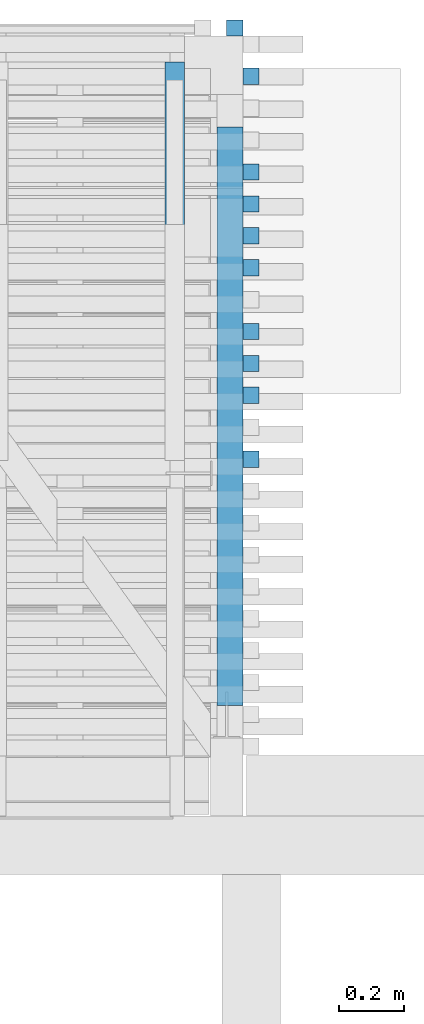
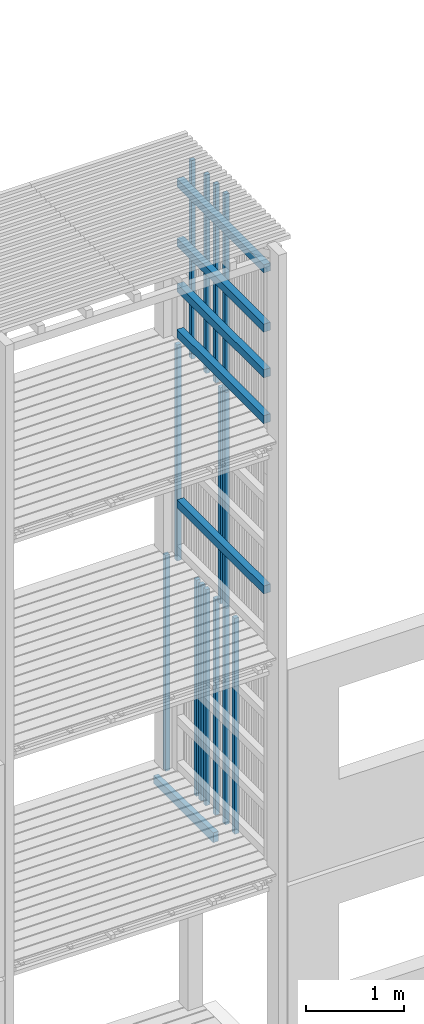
# One storey, part 56 of 182: 20 beams.
"""IFC2X3 building model written with IfcOpenShell, lengths in metres."""

from ifc_helpers import new_model, si_unit, frame, origin, place, context, project, spatial, faceted_brep, element, save


model = new_model("IFC2X3")

# Units and contexts
model_context = context("Model", 3, precision=1e-06, world=origin())
ifc_project = project(units=[si_unit("LENGTHUNIT", "METRE"), si_unit("PLANEANGLEUNIT", "RADIAN")], contexts=[model_context])

# Site, building, storey
site = spatial("IfcSite", under=ifc_project, CompositionType="ELEMENT")
building = spatial("IfcBuilding", under=site, CompositionType="ELEMENT")
storey = spatial("IfcBuildingStorey", under=building, Name="vs", CompositionType="ELEMENT", Elevation=-0.85)

# Beams
placement = place(None, origin())
beam_1_placement = place(placement, frame((16.62919731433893, 12.895077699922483, 2.575000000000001), z_axis=(0.0, -1.0, 0.0), x_axis=(0.0, 0.0, 1.0)))
element("IfcBeam", 1, at=beam_1_placement, inside=storey, Name="Bardage", context=model_context, shape_type="Brep", body=[
    faceted_brep([(2.699961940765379, -0.025000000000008, 0.025000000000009), (2.699961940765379, -0.025000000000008, -0.024999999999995), (2.699961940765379, 0.02499999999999, -0.025000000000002), (2.699961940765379, 0.025000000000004, 0.025000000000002), (0.0, -0.025000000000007, 0.025000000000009), (2.699961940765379, -0.025000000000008, 0.025000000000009), (2.699961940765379, 0.025000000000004, 0.025000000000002), (0.0, 0.025000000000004, 0.025000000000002), (0.0, -0.025000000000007, 0.025000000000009), (0.0, 0.025000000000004, 0.025000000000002), (0.0, 0.02499999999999, -0.025000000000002), (0.0, -0.025000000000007, -0.024999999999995), (0.0, -0.025000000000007, 0.025000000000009), (0.0, -0.025000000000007, -0.024999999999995), (2.699961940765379, -0.025000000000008, -0.024999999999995), (2.699961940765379, -0.025000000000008, 0.025000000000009), (0.0, -0.025000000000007, -0.024999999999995), (0.0, 0.02499999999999, -0.025000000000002), (2.699961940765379, 0.02499999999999, -0.025000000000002), (2.699961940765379, -0.025000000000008, -0.024999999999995), (0.0, 0.02499999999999, -0.025000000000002), (0.0, 0.025000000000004, 0.025000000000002), (2.699961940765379, 0.025000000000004, 0.025000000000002), (2.699961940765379, 0.02499999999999, -0.025000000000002)], [[[0, 1, 2, 3]], [[4, 5, 6, 7]], [[8, 9, 10, 11]], [[12, 13, 14, 15]], [[16, 17, 18, 19]], [[20, 21, 22, 23]]]),
])
beam_2_placement = place(placement, frame((16.67919731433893, 12.746895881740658, 5.274999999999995), z_axis=(-1.0, 0.0, 0.0), x_axis=(0.0, 0.0, 1.0)))
element("IfcBeam", 2, at=beam_2_placement, inside=storey, Name="Bardage", context=model_context, shape_type="Brep", body=[
    faceted_brep([(1e-15, -0.025000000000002, 0.024999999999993), (1e-15, 0.024999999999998, 0.024999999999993), (1e-15, 0.024999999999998, -0.025000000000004), (1e-15, -0.025000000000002, -0.025000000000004), (2.699999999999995, -0.025000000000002, -0.025000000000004), (2.699999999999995, 0.025000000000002, -0.025000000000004), (2.699999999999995, 0.025000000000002, 0.024999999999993), (2.699999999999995, -0.025000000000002, 0.024999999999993), (1e-15, -0.025000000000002, 0.024999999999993), (1e-15, -0.025000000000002, -0.025000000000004), (2.699999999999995, -0.025000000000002, -0.025000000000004), (2.699999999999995, -0.025000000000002, 0.024999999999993), (2.699999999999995, -0.025000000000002, -0.025000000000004), (1e-15, -0.025000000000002, -0.025000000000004), (1e-15, 0.024999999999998, -0.025000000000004), (2.699999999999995, 0.025000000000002, -0.025000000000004), (2.699999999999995, 0.025000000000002, -0.025000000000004), (1e-15, 0.024999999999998, -0.025000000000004), (1e-15, 0.024999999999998, 0.024999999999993), (2.699999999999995, 0.025000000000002, 0.024999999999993), (2.699999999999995, 0.025000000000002, 0.024999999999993), (1e-15, 0.024999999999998, 0.024999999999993), (1e-15, -0.025000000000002, 0.024999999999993), (2.699999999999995, -0.025000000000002, 0.024999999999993)], [[[0, 1, 2, 3]], [[4, 5, 6, 7]], [[8, 9, 10, 11]], [[12, 13, 14, 15]], [[16, 17, 18, 19]], [[20, 21, 22, 23]]]),
])
beam_3_placement = place(placement, frame((16.67919731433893, 11.863259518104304, 5.274999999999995), z_axis=(-1.0, 0.0, 0.0), x_axis=(0.0, 0.0, 1.0)))
element("IfcBeam", 3, at=beam_3_placement, inside=storey, Name="Bardage", context=model_context, shape_type="Brep", body=[
    faceted_brep([(1e-15, -0.024999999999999, 0.024999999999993), (1e-15, 0.024999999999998, 0.024999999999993), (1e-15, 0.024999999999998, -0.025000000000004), (1e-15, -0.024999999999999, -0.025000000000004), (2.699999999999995, -0.024999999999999, -0.025000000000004), (2.699999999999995, 0.024999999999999, -0.025000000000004), (2.699999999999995, 0.024999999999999, 0.024999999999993), (2.699999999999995, -0.024999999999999, 0.024999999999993), (1e-15, -0.024999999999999, 0.024999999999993), (1e-15, -0.024999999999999, -0.025000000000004), (2.699999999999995, -0.024999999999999, -0.025000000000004), (2.699999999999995, -0.024999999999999, 0.024999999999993), (2.699999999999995, -0.024999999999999, -0.025000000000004), (1e-15, -0.024999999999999, -0.025000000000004), (1e-15, 0.024999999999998, -0.025000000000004), (2.699999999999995, 0.024999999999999, -0.025000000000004), (2.699999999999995, 0.024999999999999, -0.025000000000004), (1e-15, 0.024999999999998, -0.025000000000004), (1e-15, 0.024999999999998, 0.024999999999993), (2.699999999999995, 0.024999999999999, 0.024999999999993), (2.699999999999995, 0.024999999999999, 0.024999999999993), (1e-15, 0.024999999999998, 0.024999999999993), (1e-15, -0.024999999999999, 0.024999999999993), (2.699999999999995, -0.024999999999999, 0.024999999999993)], [[[0, 1, 2, 3]], [[4, 5, 6, 7]], [[8, 9, 10, 11]], [[12, 13, 14, 15]], [[16, 17, 18, 19]], [[20, 21, 22, 23]]]),
])
beam_4_placement = place(placement, frame((16.614197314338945, 10.810077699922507, 6.101249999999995), z_axis=(0.0, 0.0, 1.0), x_axis=(0.0, 1.0, 0.0)))
element("IfcBeam", 4, at=beam_4_placement, inside=storey, Name="Support bardage", context=model_context, shape_type="Brep", body=[
    faceted_brep([(1.779999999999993, -0.039999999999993, 0.050000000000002), (1.779999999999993, -0.039999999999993, -0.05), (1.779999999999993, 0.04000000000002, -0.05), (1.779999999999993, 0.04000000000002, 0.050000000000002), (-4e-15, -0.039999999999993, -0.05), (1.779999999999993, -0.039999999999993, -0.05), (1.779999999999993, -0.039999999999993, 0.050000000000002), (-4e-15, -0.039999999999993, 0.050000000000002), (-4e-15, 0.04000000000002, -0.05), (1.779999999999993, 0.04000000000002, -0.05), (1.779999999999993, -0.039999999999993, -0.05), (-4e-15, -0.039999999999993, -0.05), (-4e-15, 0.04000000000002, 0.050000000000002), (1.779999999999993, 0.04000000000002, 0.050000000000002), (1.779999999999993, 0.04000000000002, -0.05), (-4e-15, 0.04000000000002, -0.05), (-4e-15, -0.039999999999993, 0.050000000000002), (1.779999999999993, -0.039999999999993, 0.050000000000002), (1.779999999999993, 0.04000000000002, 0.050000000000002), (-4e-15, 0.04000000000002, 0.050000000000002), (-4e-15, -0.039999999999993, -0.05), (-4e-15, -0.039999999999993, 0.050000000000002), (-4e-15, 0.04000000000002, 0.050000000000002), (-4e-15, 0.04000000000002, -0.05)], [[[0, 1, 2, 3]], [[4, 5, 6, 7]], [[8, 9, 10, 11]], [[12, 13, 14, 15]], [[16, 17, 18, 19]], [[20, 21, 22, 23]]]),
])
beam_5_placement = place(placement, frame((16.67919731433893, 11.961441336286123, 7.974999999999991), z_axis=(-1.0, 0.0, 0.0), x_axis=(0.0, 0.0, 1.0)))
element("IfcBeam", 5, at=beam_5_placement, inside=storey, Name="Bardage", context=model_context, shape_type="Brep", body=[
    faceted_brep([(2.479999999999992, -0.025000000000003, 0.024999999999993), (2.479999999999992, -0.025000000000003, -0.025000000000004), (2.479999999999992, 0.024999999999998, -0.025000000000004), (2.479999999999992, 0.024999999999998, 0.024999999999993), (0.0, 0.024999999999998, 0.024999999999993), (0.0, -0.025000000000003, 0.024999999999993), (2.479999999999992, -0.025000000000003, 0.024999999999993), (2.479999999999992, 0.024999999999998, 0.024999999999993), (0.0, -0.025000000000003, 0.024999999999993), (0.0, 0.024999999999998, 0.024999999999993), (0.0, 0.024999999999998, -0.025000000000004), (0.0, -0.025000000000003, -0.025000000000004), (0.0, 0.024999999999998, -0.025000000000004), (0.0, 0.024999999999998, 0.024999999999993), (2.479999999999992, 0.024999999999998, 0.024999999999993), (2.479999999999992, 0.024999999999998, -0.025000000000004), (0.0, -0.025000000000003, -0.025000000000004), (0.0, 0.024999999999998, -0.025000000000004), (2.479999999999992, 0.024999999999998, -0.025000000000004), (2.479999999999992, -0.025000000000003, -0.025000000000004), (2.479999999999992, -0.025000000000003, 0.024999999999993), (0.0, -0.025000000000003, 0.024999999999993), (0.0, -0.025000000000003, -0.025000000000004), (2.479999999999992, -0.025000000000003, -0.025000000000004)], [[[0, 1, 2, 3]], [[4, 5, 6, 7]], [[8, 9, 10, 11]], [[12, 13, 14, 15]], [[16, 17, 18, 19]], [[20, 21, 22, 23]]]),
])
beam_6_placement = place(placement, frame((16.67919731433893, 12.452350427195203, 7.974999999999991), z_axis=(-1.0, 0.0, 0.0), x_axis=(0.0, 0.0, 1.0)))
element("IfcBeam", 6, at=beam_6_placement, inside=storey, Name="Bardage", context=model_context, shape_type="Brep", body=[
    faceted_brep([(2.479999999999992, -0.024999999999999, 0.024999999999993), (2.479999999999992, -0.024999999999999, -0.025000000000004), (2.479999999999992, 0.025000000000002, -0.025000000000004), (2.479999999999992, 0.025000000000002, 0.024999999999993), (0.0, 0.025000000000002, 0.024999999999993), (0.0, -0.024999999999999, 0.024999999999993), (2.479999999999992, -0.024999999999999, 0.024999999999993), (2.479999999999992, 0.025000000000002, 0.024999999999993), (0.0, -0.024999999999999, 0.024999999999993), (0.0, 0.025000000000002, 0.024999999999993), (0.0, 0.025000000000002, -0.025000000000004), (0.0, -0.024999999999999, -0.025000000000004), (0.0, 0.025000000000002, -0.025000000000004), (0.0, 0.025000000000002, 0.024999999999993), (2.479999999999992, 0.025000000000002, 0.024999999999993), (2.479999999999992, 0.025000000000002, -0.025000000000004), (0.0, -0.024999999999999, -0.025000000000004), (0.0, 0.025000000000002, -0.025000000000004), (2.479999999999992, 0.025000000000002, -0.025000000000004), (2.479999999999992, -0.024999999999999, -0.025000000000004), (2.479999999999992, -0.024999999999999, 0.024999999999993), (0.0, -0.024999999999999, 0.024999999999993), (0.0, -0.024999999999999, -0.025000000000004), (2.479999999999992, -0.024999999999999, -0.025000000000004)], [[[0, 1, 2, 3]], [[4, 5, 6, 7]], [[8, 9, 10, 11]], [[12, 13, 14, 15]], [[16, 17, 18, 19]], [[20, 21, 22, 23]]]),
])
beam_7_placement = place(placement, frame((16.67919731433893, 11.765077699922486, 7.974999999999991), z_axis=(-1.0, 0.0, 0.0), x_axis=(0.0, 1e-15, 1.0)))
element("IfcBeam", 7, at=beam_7_placement, inside=storey, Name="Bardage", context=model_context, shape_type="Brep", body=[
    faceted_brep([(2.479999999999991, -0.025000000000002, 0.024999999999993), (2.479999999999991, -0.025000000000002, -0.025000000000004), (2.479999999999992, 0.024999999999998, -0.025000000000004), (2.479999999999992, 0.024999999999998, 0.024999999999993), (0.0, 0.025000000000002, 0.024999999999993), (0.0, -0.024999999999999, 0.024999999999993), (2.479999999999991, -0.025000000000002, 0.024999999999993), (2.479999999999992, 0.024999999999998, 0.024999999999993), (0.0, -0.024999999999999, 0.024999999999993), (0.0, 0.025000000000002, 0.024999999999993), (0.0, 0.025000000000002, -0.025000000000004), (0.0, -0.024999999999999, -0.025000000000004), (0.0, 0.025000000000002, -0.025000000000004), (0.0, 0.025000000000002, 0.024999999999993), (2.479999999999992, 0.024999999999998, 0.024999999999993), (2.479999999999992, 0.024999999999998, -0.025000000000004), (0.0, -0.024999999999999, -0.025000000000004), (0.0, 0.025000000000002, -0.025000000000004), (2.479999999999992, 0.024999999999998, -0.025000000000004), (2.479999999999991, -0.025000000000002, -0.025000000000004), (2.479999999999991, -0.025000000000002, 0.024999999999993), (0.0, -0.024999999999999, 0.024999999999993), (0.0, -0.024999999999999, -0.025000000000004), (2.479999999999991, -0.025000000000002, -0.025000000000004)], [[[0, 1, 2, 3]], [[4, 5, 6, 7]], [[8, 9, 10, 11]], [[12, 13, 14, 15]], [[16, 17, 18, 19]], [[20, 21, 22, 23]]]),
])
beam_8_placement = place(placement, frame((16.67919731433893, 12.255986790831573, 2.575000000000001), z_axis=(-1.0, 0.0, 0.0), x_axis=(0.0, 0.0, 1.0)))
element("IfcBeam", 8, at=beam_8_placement, inside=storey, Name="Bardage", context=model_context, shape_type="Brep", body=[
    faceted_brep([(0.0, -0.025000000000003, 0.024999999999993), (0.0, 0.025000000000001, 0.024999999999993), (0.0, 0.025000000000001, -0.025000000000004), (0.0, -0.025000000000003, -0.025000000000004), (2.699961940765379, 0.025000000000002, -0.025000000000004), (2.699961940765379, 0.025000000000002, 0.024999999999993), (2.699961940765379, -0.024999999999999, 0.024999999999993), (2.699961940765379, -0.024999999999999, -0.025000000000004), (0.0, -0.025000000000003, -0.025000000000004), (0.0, 0.025000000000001, -0.025000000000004), (2.699961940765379, 0.025000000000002, -0.025000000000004), (2.699961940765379, -0.024999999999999, -0.025000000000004), (2.699961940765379, 0.025000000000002, -0.025000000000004), (0.0, 0.025000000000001, -0.025000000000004), (0.0, 0.025000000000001, 0.024999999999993), (2.699961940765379, 0.025000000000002, 0.024999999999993), (2.699961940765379, 0.025000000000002, 0.024999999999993), (0.0, 0.025000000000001, 0.024999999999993), (0.0, -0.025000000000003, 0.024999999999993), (2.699961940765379, -0.024999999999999, 0.024999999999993), (2.699961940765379, -0.024999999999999, 0.024999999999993), (0.0, -0.025000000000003, 0.024999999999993), (0.0, -0.025000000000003, -0.025000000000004), (2.699961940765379, -0.024999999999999, -0.025000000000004)], [[[0, 1, 2, 3]], [[4, 5, 6, 7]], [[8, 9, 10, 11]], [[12, 13, 14, 15]], [[16, 17, 18, 19]], [[20, 21, 22, 23]]]),
])
beam_9_placement = place(placement, frame((16.67919731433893, 12.157804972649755, 2.575000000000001), z_axis=(-1.0, 0.0, 0.0), x_axis=(0.0, 0.0, 1.0)))
element("IfcBeam", 9, at=beam_9_placement, inside=storey, Name="Bardage", context=model_context, shape_type="Brep", body=[
    faceted_brep([(0.0, -0.024999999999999, 0.024999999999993), (0.0, 0.025000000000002, 0.024999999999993), (0.0, 0.025000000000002, -0.025000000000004), (0.0, -0.024999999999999, -0.025000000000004), (2.699961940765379, 0.025000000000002, -0.025000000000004), (2.699961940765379, 0.025000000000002, 0.024999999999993), (2.699961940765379, -0.024999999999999, 0.024999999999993), (2.699961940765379, -0.024999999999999, -0.025000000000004), (0.0, -0.024999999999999, -0.025000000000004), (0.0, 0.025000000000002, -0.025000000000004), (2.699961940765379, 0.025000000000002, -0.025000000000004), (2.699961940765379, -0.024999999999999, -0.025000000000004), (2.699961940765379, 0.025000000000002, -0.025000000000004), (0.0, 0.025000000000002, -0.025000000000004), (0.0, 0.025000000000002, 0.024999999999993), (2.699961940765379, 0.025000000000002, 0.024999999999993), (2.699961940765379, 0.025000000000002, 0.024999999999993), (0.0, 0.025000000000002, 0.024999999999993), (0.0, -0.024999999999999, 0.024999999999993), (2.699961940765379, -0.024999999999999, 0.024999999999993), (2.699961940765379, -0.024999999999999, 0.024999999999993), (0.0, -0.024999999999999, 0.024999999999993), (0.0, -0.024999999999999, -0.025000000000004), (2.699961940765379, -0.024999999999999, -0.025000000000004)], [[[0, 1, 2, 3]], [[4, 5, 6, 7]], [[8, 9, 10, 11]], [[12, 13, 14, 15]], [[16, 17, 18, 19]], [[20, 21, 22, 23]]]),
])
beam_10_placement = place(placement, frame((16.44419731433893, 11.565077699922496, 2.604249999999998), z_axis=(0.0, 0.0, 1.0), x_axis=(0.0, 1.0, 0.0)))
element("IfcBeam", 10, at=beam_10_placement, inside=storey, Name="Solive", context=model_context, shape_type="Brep", body=[
    faceted_brep([(0.0, -0.03, 0.06185), (0.0, -0.03, -0.06185), (1.225000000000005, -0.03, -0.06185), (1.225000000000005, -0.03, 0.03735), (0.0, -0.03, -0.06185), (0.0, -0.03, 0.06185), (0.0, 0.029999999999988, 0.06185), (0.0, 0.029999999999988, -0.06185), (1.225000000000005, -0.03, -0.06185), (0.0, -0.03, -0.06185), (0.0, 0.029999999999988, -0.06185), (1.225000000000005, 0.029999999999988, -0.06185), (1.225000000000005, 0.029999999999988, 0.03735), (1.225000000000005, 0.029999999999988, -0.06185), (0.0, 0.029999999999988, -0.06185), (0.0, 0.029999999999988, 0.06185), (1.225000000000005, -0.03, 0.03735), (1.225000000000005, -0.03, -0.06185), (1.225000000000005, 0.029999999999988, -0.06185), (1.225000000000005, 0.029999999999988, 0.03735), (1.225000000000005, -0.03, 0.03735), (1.225000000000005, 0.029999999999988, 0.03735), (0.0, 0.029999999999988, 0.06185), (0.0, -0.03, 0.06185)], [[[0, 1, 2, 3]], [[4, 5, 6, 7]], [[8, 9, 10, 11]], [[12, 13, 14, 15]], [[16, 17, 18, 19]], [[20, 21, 22, 23]]]),
])
beam_11_placement = place(placement, frame((16.67919731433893, 12.354168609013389, 2.575000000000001), z_axis=(-1.0, 0.0, 0.0), x_axis=(0.0, 0.0, 1.0)))
element("IfcBeam", 11, at=beam_11_placement, inside=storey, Name="Bardage", context=model_context, shape_type="Brep", body=[
    faceted_brep([(0.0, -0.024999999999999, 0.024999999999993), (0.0, 0.024999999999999, 0.024999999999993), (0.0, 0.024999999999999, -0.025000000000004), (0.0, -0.024999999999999, -0.025000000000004), (2.699961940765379, 0.024999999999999, -0.025000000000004), (2.699961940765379, 0.024999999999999, 0.024999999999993), (2.699961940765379, -0.024999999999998, 0.024999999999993), (2.699961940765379, -0.024999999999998, -0.025000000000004), (0.0, -0.024999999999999, -0.025000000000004), (0.0, 0.024999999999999, -0.025000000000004), (2.699961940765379, 0.024999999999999, -0.025000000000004), (2.699961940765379, -0.024999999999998, -0.025000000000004), (2.699961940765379, 0.024999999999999, -0.025000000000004), (0.0, 0.024999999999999, -0.025000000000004), (0.0, 0.024999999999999, 0.024999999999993), (2.699961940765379, 0.024999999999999, 0.024999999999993), (2.699961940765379, 0.024999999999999, 0.024999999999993), (0.0, 0.024999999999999, 0.024999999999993), (0.0, -0.024999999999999, 0.024999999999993), (2.699961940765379, -0.024999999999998, 0.024999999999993), (2.699961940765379, -0.024999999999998, 0.024999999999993), (0.0, -0.024999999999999, 0.024999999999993), (0.0, -0.024999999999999, -0.025000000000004), (2.699961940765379, -0.024999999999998, -0.025000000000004)], [[[0, 1, 2, 3]], [[4, 5, 6, 7]], [[8, 9, 10, 11]], [[12, 13, 14, 15]], [[16, 17, 18, 19]], [[20, 21, 22, 23]]]),
])
beam_12_placement = place(placement, frame((16.614197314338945, 10.810077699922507, 9.37249999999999), z_axis=(0.0, 0.0, 1.0), x_axis=(0.0, 1.0, 0.0)))
element("IfcBeam", 12, at=beam_12_placement, inside=storey, Name="Support bardage", context=model_context, shape_type="Brep", body=[
    faceted_brep([(1.779999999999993, -0.039999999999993, 0.050000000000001), (1.779999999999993, -0.039999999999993, -0.050000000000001), (1.779999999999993, 0.04000000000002, -0.050000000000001), (1.779999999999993, 0.04000000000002, 0.050000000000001), (-4e-15, -0.039999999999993, -0.050000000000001), (1.779999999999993, -0.039999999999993, -0.050000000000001), (1.779999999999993, -0.039999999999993, 0.050000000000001), (-4e-15, -0.039999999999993, 0.050000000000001), (-4e-15, 0.04000000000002, -0.050000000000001), (1.779999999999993, 0.04000000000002, -0.050000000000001), (1.779999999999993, -0.039999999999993, -0.050000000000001), (-4e-15, -0.039999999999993, -0.050000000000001), (-4e-15, 0.04000000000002, 0.050000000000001), (1.779999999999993, 0.04000000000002, 0.050000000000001), (1.779999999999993, 0.04000000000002, -0.050000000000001), (-4e-15, 0.04000000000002, -0.050000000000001), (-4e-15, -0.039999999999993, 0.050000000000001), (1.779999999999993, -0.039999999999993, 0.050000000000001), (1.779999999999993, 0.04000000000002, 0.050000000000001), (-4e-15, 0.04000000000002, 0.050000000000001), (-4e-15, -0.039999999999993, -0.050000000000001), (-4e-15, -0.039999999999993, 0.050000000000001), (-4e-15, 0.04000000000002, 0.050000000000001), (-4e-15, 0.04000000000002, -0.050000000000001)], [[[0, 1, 2, 3]], [[4, 5, 6, 7]], [[8, 9, 10, 11]], [[12, 13, 14, 15]], [[16, 17, 18, 19]], [[20, 21, 22, 23]]]),
])
beam_13_placement = place(placement, frame((16.67919731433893, 11.765077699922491, 2.575000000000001), z_axis=(-1.0, 0.0, 0.0), x_axis=(0.0, 0.0, 1.0)))
element("IfcBeam", 13, at=beam_13_placement, inside=storey, Name="Bardage", context=model_context, shape_type="Brep", body=[
    faceted_brep([(0.0, -0.025000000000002, 0.024999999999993), (0.0, 0.024999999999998, 0.024999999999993), (0.0, 0.024999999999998, -0.025000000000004), (0.0, -0.025000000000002, -0.025000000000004), (2.699961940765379, 0.024999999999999, -0.025000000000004), (2.699961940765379, 0.024999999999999, 0.024999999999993), (2.699961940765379, -0.025000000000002, 0.024999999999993), (2.699961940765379, -0.025000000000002, -0.025000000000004), (0.0, -0.025000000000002, -0.025000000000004), (0.0, 0.024999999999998, -0.025000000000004), (2.699961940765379, 0.024999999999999, -0.025000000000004), (2.699961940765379, -0.025000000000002, -0.025000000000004), (2.699961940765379, 0.024999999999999, -0.025000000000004), (0.0, 0.024999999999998, -0.025000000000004), (0.0, 0.024999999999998, 0.024999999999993), (2.699961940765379, 0.024999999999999, 0.024999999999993), (2.699961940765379, 0.024999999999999, 0.024999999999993), (0.0, 0.024999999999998, 0.024999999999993), (0.0, -0.025000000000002, 0.024999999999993), (2.699961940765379, -0.025000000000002, 0.024999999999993), (2.699961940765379, -0.025000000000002, 0.024999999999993), (0.0, -0.025000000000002, 0.024999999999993), (0.0, -0.025000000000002, -0.025000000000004), (2.699961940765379, -0.025000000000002, -0.025000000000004)], [[[0, 1, 2, 3]], [[4, 5, 6, 7]], [[8, 9, 10, 11]], [[12, 13, 14, 15]], [[16, 17, 18, 19]], [[20, 21, 22, 23]]]),
])
beam_14_placement = place(placement, frame((16.67919731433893, 11.568714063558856, 2.575000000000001), z_axis=(-1.0, 0.0, 0.0), x_axis=(0.0, 0.0, 1.0)))
element("IfcBeam", 14, at=beam_14_placement, inside=storey, Name="Bardage", context=model_context, shape_type="Brep", body=[
    faceted_brep([(0.0, -0.024999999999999, 0.024999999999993), (0.0, 0.024999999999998, 0.024999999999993), (0.0, 0.024999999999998, -0.025000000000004), (0.0, -0.024999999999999, -0.025000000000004), (2.699961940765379, 0.024999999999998, -0.025000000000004), (2.699961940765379, 0.024999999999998, 0.024999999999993), (2.699961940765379, -0.024999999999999, 0.024999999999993), (2.699961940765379, -0.024999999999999, -0.025000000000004), (0.0, -0.024999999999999, -0.025000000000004), (0.0, 0.024999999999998, -0.025000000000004), (2.699961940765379, 0.024999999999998, -0.025000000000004), (2.699961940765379, -0.024999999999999, -0.025000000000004), (2.699961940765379, 0.024999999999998, -0.025000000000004), (0.0, 0.024999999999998, -0.025000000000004), (0.0, 0.024999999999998, 0.024999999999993), (2.699961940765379, 0.024999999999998, 0.024999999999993), (2.699961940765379, 0.024999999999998, 0.024999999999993), (0.0, 0.024999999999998, 0.024999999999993), (0.0, -0.024999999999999, 0.024999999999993), (2.699961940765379, -0.024999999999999, 0.024999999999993), (2.699961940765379, -0.024999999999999, 0.024999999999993), (0.0, -0.024999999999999, 0.024999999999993), (0.0, -0.024999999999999, -0.025000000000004), (2.699961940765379, -0.024999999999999, -0.025000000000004)], [[[0, 1, 2, 3]], [[4, 5, 6, 7]], [[8, 9, 10, 11]], [[12, 13, 14, 15]], [[16, 17, 18, 19]], [[20, 21, 22, 23]]]),
])
beam_15_placement = place(placement, frame((16.67919731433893, 11.765077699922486, 5.274999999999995), z_axis=(-1.0, 0.0, 0.0), x_axis=(0.0, 1e-15, 1.0)))
element("IfcBeam", 15, at=beam_15_placement, inside=storey, Name="Bardage", context=model_context, shape_type="Brep", body=[
    faceted_brep([(1e-15, -0.024999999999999, 0.024999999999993), (1e-15, 0.025000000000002, 0.024999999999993), (1e-15, 0.025000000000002, -0.025000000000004), (1e-15, -0.024999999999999, -0.025000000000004), (2.699999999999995, -0.025000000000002, -0.025000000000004), (2.699999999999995, 0.024999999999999, -0.025000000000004), (2.699999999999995, 0.024999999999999, 0.024999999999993), (2.699999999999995, -0.025000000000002, 0.024999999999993), (1e-15, -0.024999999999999, 0.024999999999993), (1e-15, -0.024999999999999, -0.025000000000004), (2.699999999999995, -0.025000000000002, -0.025000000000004), (2.699999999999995, -0.025000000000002, 0.024999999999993), (2.699999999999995, -0.025000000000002, -0.025000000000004), (1e-15, -0.024999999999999, -0.025000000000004), (1e-15, 0.025000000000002, -0.025000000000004), (2.699999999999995, 0.024999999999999, -0.025000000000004), (2.699999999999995, 0.024999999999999, -0.025000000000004), (1e-15, 0.025000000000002, -0.025000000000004), (1e-15, 0.025000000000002, 0.024999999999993), (2.699999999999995, 0.024999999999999, 0.024999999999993), (2.699999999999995, 0.024999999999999, 0.024999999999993), (1e-15, 0.025000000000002, 0.024999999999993), (1e-15, -0.024999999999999, 0.024999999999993), (2.699999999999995, -0.025000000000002, 0.024999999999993)], [[[0, 1, 2, 3]], [[4, 5, 6, 7]], [[8, 9, 10, 11]], [[12, 13, 14, 15]], [[16, 17, 18, 19]], [[20, 21, 22, 23]]]),
])
beam_16_placement = place(placement, frame((16.67919731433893, 11.961441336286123, 2.575000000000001), z_axis=(-1.0, 0.0, 0.0), x_axis=(0.0, 0.0, 1.0)))
element("IfcBeam", 16, at=beam_16_placement, inside=storey, Name="Bardage", context=model_context, shape_type="Brep", body=[
    faceted_brep([(0.0, -0.025000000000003, 0.024999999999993), (0.0, 0.024999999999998, 0.024999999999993), (0.0, 0.024999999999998, -0.025000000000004), (0.0, -0.025000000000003, -0.025000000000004), (2.699961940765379, 0.024999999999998, -0.025000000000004), (2.699961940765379, 0.024999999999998, 0.024999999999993), (2.699961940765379, -0.025000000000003, 0.024999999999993), (2.699961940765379, -0.025000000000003, -0.025000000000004), (0.0, -0.025000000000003, -0.025000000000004), (0.0, 0.024999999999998, -0.025000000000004), (2.699961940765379, 0.024999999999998, -0.025000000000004), (2.699961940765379, -0.025000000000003, -0.025000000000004), (2.699961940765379, 0.024999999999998, -0.025000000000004), (0.0, 0.024999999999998, -0.025000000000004), (0.0, 0.024999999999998, 0.024999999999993), (2.699961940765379, 0.024999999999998, 0.024999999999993), (2.699961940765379, 0.024999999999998, 0.024999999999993), (0.0, 0.024999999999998, 0.024999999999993), (0.0, -0.025000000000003, 0.024999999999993), (2.699961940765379, -0.025000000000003, 0.024999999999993), (2.699961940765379, -0.025000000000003, 0.024999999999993), (0.0, -0.025000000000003, 0.024999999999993), (0.0, -0.025000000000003, -0.025000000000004), (2.699961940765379, -0.025000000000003, -0.025000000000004)], [[[0, 1, 2, 3]], [[4, 5, 6, 7]], [[8, 9, 10, 11]], [[12, 13, 14, 15]], [[16, 17, 18, 19]], [[20, 21, 22, 23]]]),
])
beam_17_placement = place(placement, frame((16.614197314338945, 10.810077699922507, 8.229999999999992), z_axis=(0.0, 0.0, 1.0), x_axis=(0.0, 1.0, 0.0)))
element("IfcBeam", 17, at=beam_17_placement, inside=storey, Name="Support bardage", context=model_context, shape_type="Brep", body=[
    faceted_brep([(1.779999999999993, -0.039999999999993, 0.050000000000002), (1.779999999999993, -0.039999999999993, -0.05), (1.779999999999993, 0.04000000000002, -0.05), (1.779999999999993, 0.04000000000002, 0.050000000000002), (-4e-15, -0.039999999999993, -0.05), (1.779999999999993, -0.039999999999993, -0.05), (1.779999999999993, -0.039999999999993, 0.050000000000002), (-4e-15, -0.039999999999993, 0.050000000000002), (-4e-15, 0.04000000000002, -0.05), (1.779999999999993, 0.04000000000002, -0.05), (1.779999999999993, -0.039999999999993, -0.05), (-4e-15, -0.039999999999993, -0.05), (-4e-15, 0.04000000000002, 0.050000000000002), (1.779999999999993, 0.04000000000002, 0.050000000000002), (1.779999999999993, 0.04000000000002, -0.05), (-4e-15, 0.04000000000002, -0.05), (-4e-15, -0.039999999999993, 0.050000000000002), (1.779999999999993, -0.039999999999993, 0.050000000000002), (1.779999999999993, 0.04000000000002, 0.050000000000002), (-4e-15, 0.04000000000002, 0.050000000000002), (-4e-15, -0.039999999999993, -0.05), (-4e-15, -0.039999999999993, 0.050000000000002), (-4e-15, 0.04000000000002, 0.050000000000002), (-4e-15, 0.04000000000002, -0.05)], [[[0, 1, 2, 3]], [[4, 5, 6, 7]], [[8, 9, 10, 11]], [[12, 13, 14, 15]], [[16, 17, 18, 19]], [[20, 21, 22, 23]]]),
])
beam_18_placement = place(placement, frame((16.67919731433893, 12.157804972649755, 7.974999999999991), z_axis=(-1.0, 0.0, 0.0), x_axis=(0.0, 0.0, 1.0)))
element("IfcBeam", 18, at=beam_18_placement, inside=storey, Name="Bardage", context=model_context, shape_type="Brep", body=[
    faceted_brep([(2.479999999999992, -0.024999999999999, 0.024999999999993), (2.479999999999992, -0.024999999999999, -0.025000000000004), (2.479999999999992, 0.025000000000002, -0.025000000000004), (2.479999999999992, 0.025000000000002, 0.024999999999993), (0.0, 0.024999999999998, 0.024999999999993), (0.0, -0.024999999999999, 0.024999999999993), (2.479999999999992, -0.024999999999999, 0.024999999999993), (2.479999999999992, 0.025000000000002, 0.024999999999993), (0.0, -0.024999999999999, 0.024999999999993), (0.0, 0.024999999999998, 0.024999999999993), (0.0, 0.024999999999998, -0.025000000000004), (0.0, -0.024999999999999, -0.025000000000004), (0.0, 0.024999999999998, -0.025000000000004), (0.0, 0.024999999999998, 0.024999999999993), (2.479999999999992, 0.025000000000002, 0.024999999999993), (2.479999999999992, 0.025000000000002, -0.025000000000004), (0.0, -0.024999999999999, -0.025000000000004), (0.0, 0.024999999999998, -0.025000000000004), (2.479999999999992, 0.025000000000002, -0.025000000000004), (2.479999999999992, -0.024999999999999, -0.025000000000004), (2.479999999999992, -0.024999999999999, 0.024999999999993), (0.0, -0.024999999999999, 0.024999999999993), (0.0, -0.024999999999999, -0.025000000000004), (2.479999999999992, -0.024999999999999, -0.025000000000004)], [[[0, 1, 2, 3]], [[4, 5, 6, 7]], [[8, 9, 10, 11]], [[12, 13, 14, 15]], [[16, 17, 18, 19]], [[20, 21, 22, 23]]]),
])
beam_19_placement = place(placement, frame((16.614197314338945, 10.810077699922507, 10.114999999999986), z_axis=(0.0, 0.0, 1.0), x_axis=(0.0, 1.0, 0.0)))
element("IfcBeam", 19, at=beam_19_placement, inside=storey, Name="Support bardage", context=model_context, shape_type="Brep", body=[
    faceted_brep([(1.779999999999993, -0.039999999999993, 0.050000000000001), (1.779999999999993, -0.039999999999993, -0.050000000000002), (1.779999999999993, 0.04000000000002, -0.050000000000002), (1.779999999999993, 0.04000000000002, 0.050000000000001), (-4e-15, -0.039999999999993, -0.050000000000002), (1.779999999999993, -0.039999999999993, -0.050000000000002), (1.779999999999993, -0.039999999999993, 0.050000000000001), (-4e-15, -0.039999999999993, 0.050000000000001), (-4e-15, 0.04000000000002, -0.050000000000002), (1.779999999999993, 0.04000000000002, -0.050000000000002), (1.779999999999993, -0.039999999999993, -0.050000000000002), (-4e-15, -0.039999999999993, -0.050000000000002), (-4e-15, 0.04000000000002, 0.050000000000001), (1.779999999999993, 0.04000000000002, 0.050000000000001), (1.779999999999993, 0.04000000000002, -0.050000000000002), (-4e-15, 0.04000000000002, -0.050000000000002), (-4e-15, -0.039999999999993, 0.050000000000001), (1.779999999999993, -0.039999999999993, 0.050000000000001), (1.779999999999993, 0.04000000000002, 0.050000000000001), (-4e-15, 0.04000000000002, 0.050000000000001), (-4e-15, -0.039999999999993, -0.050000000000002), (-4e-15, -0.039999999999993, 0.050000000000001), (-4e-15, 0.04000000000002, 0.050000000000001), (-4e-15, 0.04000000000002, -0.050000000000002)], [[[0, 1, 2, 3]], [[4, 5, 6, 7]], [[8, 9, 10, 11]], [[12, 13, 14, 15]], [[16, 17, 18, 19]], [[20, 21, 22, 23]]]),
])
beam_20_placement = place(placement, frame((16.614197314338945, 10.810077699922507, 8.80124999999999), z_axis=(0.0, 0.0, 1.0), x_axis=(0.0, 1.0, 0.0)))
element("IfcBeam", 20, at=beam_20_placement, inside=storey, Name="Support bardage", context=model_context, shape_type="Brep", body=[
    faceted_brep([(1.779999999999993, -0.039999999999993, 0.050000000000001), (1.779999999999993, -0.039999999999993, -0.050000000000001), (1.779999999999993, 0.04000000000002, -0.050000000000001), (1.779999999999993, 0.04000000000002, 0.050000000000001), (-4e-15, -0.039999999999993, -0.050000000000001), (1.779999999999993, -0.039999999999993, -0.050000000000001), (1.779999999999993, -0.039999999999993, 0.050000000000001), (-4e-15, -0.039999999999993, 0.050000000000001), (-4e-15, 0.04000000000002, -0.050000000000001), (1.779999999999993, 0.04000000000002, -0.050000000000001), (1.779999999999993, -0.039999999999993, -0.050000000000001), (-4e-15, -0.039999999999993, -0.050000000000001), (-4e-15, 0.04000000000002, 0.050000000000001), (1.779999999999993, 0.04000000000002, 0.050000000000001), (1.779999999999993, 0.04000000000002, -0.050000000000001), (-4e-15, 0.04000000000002, -0.050000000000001), (-4e-15, -0.039999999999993, 0.050000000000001), (1.779999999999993, -0.039999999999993, 0.050000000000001), (1.779999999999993, 0.04000000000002, 0.050000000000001), (-4e-15, 0.04000000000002, 0.050000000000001), (-4e-15, -0.039999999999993, -0.050000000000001), (-4e-15, -0.039999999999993, 0.050000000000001), (-4e-15, 0.04000000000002, 0.050000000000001), (-4e-15, 0.04000000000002, -0.050000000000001)], [[[0, 1, 2, 3]], [[4, 5, 6, 7]], [[8, 9, 10, 11]], [[12, 13, 14, 15]], [[16, 17, 18, 19]], [[20, 21, 22, 23]]]),
])

save(model, "model.ifc")
